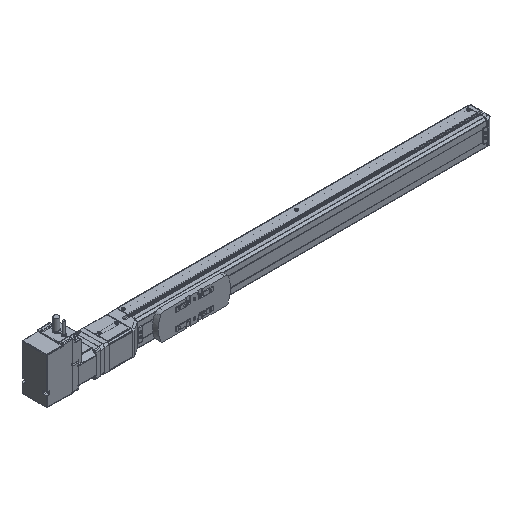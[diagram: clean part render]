
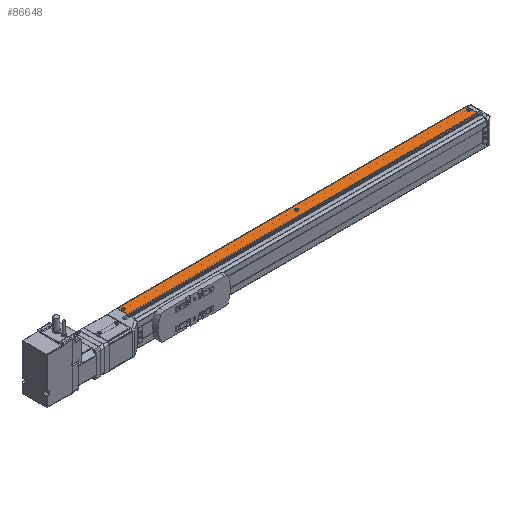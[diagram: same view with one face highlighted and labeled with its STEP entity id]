
A CAD part, isometric view. The second image highlights one B-rep face of the part: STEP entity #86648.
In plain terms, the highlighted planar face has unit normal (0, 0, 1) as drawn and (0, 0, -1) by its records, which use the part's own axes.
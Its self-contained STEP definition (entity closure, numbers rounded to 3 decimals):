
#68400 = PLANE('',#68401);
#68401 = AXIS2_PLACEMENT_3D('',#68402,#68403,#68404);
#68402 = CARTESIAN_POINT('',(-576.5,1.25,21.3));
#68403 = DIRECTION('',(1.,0.,0.));
#68404 = DIRECTION('',(0.,0.,-1.));
#68828 = PLANE('',#68829);
#68829 = AXIS2_PLACEMENT_3D('',#68830,#68831,#68832);
#68830 = CARTESIAN_POINT('',(-9.5,1.25,21.3));
#68831 = DIRECTION('',(1.,0.,0.));
#68832 = DIRECTION('',(0.,0.,-1.));
#85841 = VERTEX_POINT('',#85842);
#85842 = CARTESIAN_POINT('',(-576.5,-2.65,-21.5));
#85859 = CYLINDRICAL_SURFACE('',#85860,0.2);
#85860 = AXIS2_PLACEMENT_3D('',#85861,#85862,#85863);
#85861 = CARTESIAN_POINT('',(-576.5,-2.65,-21.3));
#85862 = DIRECTION('',(1.,0.,0.));
#85863 = DIRECTION('',(0.,0.,-1.));
#85871 = EDGE_CURVE('',#85872,#85841,#85874,.T.);
#85872 = VERTEX_POINT('',#85873);
#85873 = CARTESIAN_POINT('',(-576.5,-20.734,-21.5));
#85874 = SURFACE_CURVE('',#85875,(#85879,#85886),.PCURVE_S1.);
#85875 = LINE('',#85876,#85877);
#85876 = CARTESIAN_POINT('',(-576.5,-20.734,-21.5));
#85877 = VECTOR('',#85878,1.);
#85878 = DIRECTION('',(0.,1.,0.));
#85879 = PCURVE('',#68400,#85880);
#85880 = DEFINITIONAL_REPRESENTATION('',(#85881),#85885);
#85881 = LINE('',#85882,#85883);
#85882 = CARTESIAN_POINT('',(42.8,-21.984));
#85883 = VECTOR('',#85884,1.);
#85884 = DIRECTION('',(0.,1.));
#85885 = ( GEOMETRIC_REPRESENTATION_CONTEXT(2) 
PARAMETRIC_REPRESENTATION_CONTEXT() REPRESENTATION_CONTEXT('2D SPACE',''
  ) );
#85886 = PCURVE('',#85887,#85892);
#85887 = PLANE('',#85888);
#85888 = AXIS2_PLACEMENT_3D('',#85889,#85890,#85891);
#85889 = CARTESIAN_POINT('',(-576.5,-20.734,-21.5));
#85890 = DIRECTION('',(0.,0.,-1.));
#85891 = DIRECTION('',(-1.,0.,0.));
#85892 = DEFINITIONAL_REPRESENTATION('',(#85893),#85897);
#85893 = LINE('',#85894,#85895);
#85894 = CARTESIAN_POINT('',(0.,0.));
#85895 = VECTOR('',#85896,1.);
#85896 = DIRECTION('',(0.,1.));
#85897 = ( GEOMETRIC_REPRESENTATION_CONTEXT(2) 
PARAMETRIC_REPRESENTATION_CONTEXT() REPRESENTATION_CONTEXT('2D SPACE',''
  ) );
#85916 = CYLINDRICAL_SURFACE('',#85917,1.);
#85917 = AXIS2_PLACEMENT_3D('',#85918,#85919,#85920);
#85918 = CARTESIAN_POINT('',(-576.5,-20.734,-20.5));
#85919 = DIRECTION('',(1.,0.,0.));
#85920 = DIRECTION('',(0.,0.,-1.));
#86329 = VERTEX_POINT('',#86330);
#86330 = CARTESIAN_POINT('',(-9.5,-20.734,-21.5));
#86352 = EDGE_CURVE('',#86329,#86353,#86355,.T.);
#86353 = VERTEX_POINT('',#86354);
#86354 = CARTESIAN_POINT('',(-9.5,-2.65,-21.5));
#86355 = SURFACE_CURVE('',#86356,(#86360,#86367),.PCURVE_S1.);
#86356 = LINE('',#86357,#86358);
#86357 = CARTESIAN_POINT('',(-9.5,-20.734,-21.5));
#86358 = VECTOR('',#86359,1.);
#86359 = DIRECTION('',(0.,1.,0.));
#86360 = PCURVE('',#68828,#86361);
#86361 = DEFINITIONAL_REPRESENTATION('',(#86362),#86366);
#86362 = LINE('',#86363,#86364);
#86363 = CARTESIAN_POINT('',(42.8,-21.984));
#86364 = VECTOR('',#86365,1.);
#86365 = DIRECTION('',(0.,1.));
#86366 = ( GEOMETRIC_REPRESENTATION_CONTEXT(2) 
PARAMETRIC_REPRESENTATION_CONTEXT() REPRESENTATION_CONTEXT('2D SPACE',''
  ) );
#86367 = PCURVE('',#85887,#86368);
#86368 = DEFINITIONAL_REPRESENTATION('',(#86369),#86373);
#86369 = LINE('',#86370,#86371);
#86370 = CARTESIAN_POINT('',(-567.,0.));
#86371 = VECTOR('',#86372,1.);
#86372 = DIRECTION('',(0.,1.));
#86373 = ( GEOMETRIC_REPRESENTATION_CONTEXT(2) 
PARAMETRIC_REPRESENTATION_CONTEXT() REPRESENTATION_CONTEXT('2D SPACE',''
  ) );
#86628 = EDGE_CURVE('',#85872,#86329,#86629,.T.);
#86629 = SURFACE_CURVE('',#86630,(#86634,#86641),.PCURVE_S1.);
#86630 = LINE('',#86631,#86632);
#86631 = CARTESIAN_POINT('',(-576.5,-20.734,-21.5));
#86632 = VECTOR('',#86633,1.);
#86633 = DIRECTION('',(1.,0.,0.));
#86634 = PCURVE('',#85916,#86635);
#86635 = DEFINITIONAL_REPRESENTATION('',(#86636),#86640);
#86636 = LINE('',#86637,#86638);
#86637 = CARTESIAN_POINT('',(6.283,0.));
#86638 = VECTOR('',#86639,1.);
#86639 = DIRECTION('',(0.,1.));
#86640 = ( GEOMETRIC_REPRESENTATION_CONTEXT(2) 
PARAMETRIC_REPRESENTATION_CONTEXT() REPRESENTATION_CONTEXT('2D SPACE',''
  ) );
#86641 = PCURVE('',#85887,#86642);
#86642 = DEFINITIONAL_REPRESENTATION('',(#86643),#86647);
#86643 = LINE('',#86644,#86645);
#86644 = CARTESIAN_POINT('',(0.,0.));
#86645 = VECTOR('',#86646,1.);
#86646 = DIRECTION('',(-1.,0.));
#86647 = ( GEOMETRIC_REPRESENTATION_CONTEXT(2) 
PARAMETRIC_REPRESENTATION_CONTEXT() REPRESENTATION_CONTEXT('2D SPACE',''
  ) );
#86648 = ADVANCED_FACE('',(#86649,#86680,#86715,#86750),#85887,.T.);
#86649 = FACE_BOUND('',#86650,.T.);
#86650 = EDGE_LOOP('',(#86651));
#86651 = ORIENTED_EDGE('',*,*,#86652,.F.);
#86652 = EDGE_CURVE('',#86653,#86653,#86655,.T.);
#86653 = VERTEX_POINT('',#86654);
#86654 = CARTESIAN_POINT('',(-295.25,-13.5,-21.5));
#86655 = SURFACE_CURVE('',#86656,(#86661,#86668),.PCURVE_S1.);
#86656 = CIRCLE('',#86657,2.25);
#86657 = AXIS2_PLACEMENT_3D('',#86658,#86659,#86660);
#86658 = CARTESIAN_POINT('',(-293.,-13.5,-21.5));
#86659 = DIRECTION('',(0.,0.,-1.));
#86660 = DIRECTION('',(-1.,0.,0.));
#86661 = PCURVE('',#85887,#86662);
#86662 = DEFINITIONAL_REPRESENTATION('',(#86663),#86667);
#86663 = CIRCLE('',#86664,2.25);
#86664 = AXIS2_PLACEMENT_2D('',#86665,#86666);
#86665 = CARTESIAN_POINT('',(-283.5,7.234));
#86666 = DIRECTION('',(1.,0.));
#86667 = ( GEOMETRIC_REPRESENTATION_CONTEXT(2) 
PARAMETRIC_REPRESENTATION_CONTEXT() REPRESENTATION_CONTEXT('2D SPACE',''
  ) );
#86668 = PCURVE('',#86669,#86674);
#86669 = CONICAL_SURFACE('',#86670,2.25,0.087);
#86670 = AXIS2_PLACEMENT_3D('',#86671,#86672,#86673);
#86671 = CARTESIAN_POINT('',(-293.,-13.5,-21.5));
#86672 = DIRECTION('',(0.,0.,1.));
#86673 = DIRECTION('',(1.,0.,-0.));
#86674 = DEFINITIONAL_REPRESENTATION('',(#86675),#86679);
#86675 = LINE('',#86676,#86677);
#86676 = CARTESIAN_POINT('',(9.425,0.));
#86677 = VECTOR('',#86678,1.);
#86678 = DIRECTION('',(-1.,0.));
#86679 = ( GEOMETRIC_REPRESENTATION_CONTEXT(2) 
PARAMETRIC_REPRESENTATION_CONTEXT() REPRESENTATION_CONTEXT('2D SPACE',''
  ) );
#86680 = FACE_BOUND('',#86681,.T.);
#86681 = EDGE_LOOP('',(#86682));
#86682 = ORIENTED_EDGE('',*,*,#86683,.T.);
#86683 = EDGE_CURVE('',#86684,#86684,#86686,.T.);
#86684 = VERTEX_POINT('',#86685);
#86685 = CARTESIAN_POINT('',(-570.71,-14.5,-21.5));
#86686 = SURFACE_CURVE('',#86687,(#86692,#86703),.PCURVE_S1.);
#86687 = CIRCLE('',#86688,2.29);
#86688 = AXIS2_PLACEMENT_3D('',#86689,#86690,#86691);
#86689 = CARTESIAN_POINT('',(-573.,-14.5,-21.5));
#86690 = DIRECTION('',(0.,0.,1.));
#86691 = DIRECTION('',(1.,0.,-0.));
#86692 = PCURVE('',#85887,#86693);
#86693 = DEFINITIONAL_REPRESENTATION('',(#86694),#86702);
#86694 = ( BOUNDED_CURVE() B_SPLINE_CURVE(2,(#86695,#86696,#86697,#86698
    ,#86699,#86700,#86701),.UNSPECIFIED.,.T.,.F.) 
B_SPLINE_CURVE_WITH_KNOTS((1,2,2,2,2,1),(-2.094,0.,
    2.094,4.189,6.283,8.378),
.UNSPECIFIED.) CURVE() GEOMETRIC_REPRESENTATION_ITEM() 
RATIONAL_B_SPLINE_CURVE((1.,0.5,1.,0.5,1.,0.5,1.)) REPRESENTATION_ITEM(
  '') );
#86695 = CARTESIAN_POINT('',(-5.79,6.234));
#86696 = CARTESIAN_POINT('',(-5.79,10.201));
#86697 = CARTESIAN_POINT('',(-2.355,8.218));
#86698 = CARTESIAN_POINT('',(1.08,6.234));
#86699 = CARTESIAN_POINT('',(-2.355,4.251));
#86700 = CARTESIAN_POINT('',(-5.79,2.268));
#86701 = CARTESIAN_POINT('',(-5.79,6.234));
#86702 = ( GEOMETRIC_REPRESENTATION_CONTEXT(2) 
PARAMETRIC_REPRESENTATION_CONTEXT() REPRESENTATION_CONTEXT('2D SPACE',''
  ) );
#86703 = PCURVE('',#86704,#86709);
#86704 = CONICAL_SURFACE('',#86705,2.221,0.087);
#86705 = AXIS2_PLACEMENT_3D('',#86706,#86707,#86708);
#86706 = CARTESIAN_POINT('',(-573.,-14.5,-22.289));
#86707 = DIRECTION('',(0.,0.,1.));
#86708 = DIRECTION('',(1.,0.,-0.));
#86709 = DEFINITIONAL_REPRESENTATION('',(#86710),#86714);
#86710 = LINE('',#86711,#86712);
#86711 = CARTESIAN_POINT('',(0.,0.789));
#86712 = VECTOR('',#86713,1.);
#86713 = DIRECTION('',(1.,0.));
#86714 = ( GEOMETRIC_REPRESENTATION_CONTEXT(2) 
PARAMETRIC_REPRESENTATION_CONTEXT() REPRESENTATION_CONTEXT('2D SPACE',''
  ) );
#86715 = FACE_BOUND('',#86716,.T.);
#86716 = EDGE_LOOP('',(#86717));
#86717 = ORIENTED_EDGE('',*,*,#86718,.T.);
#86718 = EDGE_CURVE('',#86719,#86719,#86721,.T.);
#86719 = VERTEX_POINT('',#86720);
#86720 = CARTESIAN_POINT('',(-10.71,-14.5,-21.5));
#86721 = SURFACE_CURVE('',#86722,(#86727,#86738),.PCURVE_S1.);
#86722 = CIRCLE('',#86723,2.29);
#86723 = AXIS2_PLACEMENT_3D('',#86724,#86725,#86726);
#86724 = CARTESIAN_POINT('',(-13.,-14.5,-21.5));
#86725 = DIRECTION('',(0.,0.,1.));
#86726 = DIRECTION('',(1.,0.,-0.));
#86727 = PCURVE('',#85887,#86728);
#86728 = DEFINITIONAL_REPRESENTATION('',(#86729),#86737);
#86729 = ( BOUNDED_CURVE() B_SPLINE_CURVE(2,(#86730,#86731,#86732,#86733
    ,#86734,#86735,#86736),.UNSPECIFIED.,.T.,.F.) 
B_SPLINE_CURVE_WITH_KNOTS((1,2,2,2,2,1),(-2.094,0.,
    2.094,4.189,6.283,8.378),
.UNSPECIFIED.) CURVE() GEOMETRIC_REPRESENTATION_ITEM() 
RATIONAL_B_SPLINE_CURVE((1.,0.5,1.,0.5,1.,0.5,1.)) REPRESENTATION_ITEM(
  '') );
#86730 = CARTESIAN_POINT('',(-565.79,6.234));
#86731 = CARTESIAN_POINT('',(-565.79,10.201));
#86732 = CARTESIAN_POINT('',(-562.355,8.218));
#86733 = CARTESIAN_POINT('',(-558.92,6.234));
#86734 = CARTESIAN_POINT('',(-562.355,4.251));
#86735 = CARTESIAN_POINT('',(-565.79,2.268));
#86736 = CARTESIAN_POINT('',(-565.79,6.234));
#86737 = ( GEOMETRIC_REPRESENTATION_CONTEXT(2) 
PARAMETRIC_REPRESENTATION_CONTEXT() REPRESENTATION_CONTEXT('2D SPACE',''
  ) );
#86738 = PCURVE('',#86739,#86744);
#86739 = CONICAL_SURFACE('',#86740,2.221,0.087);
#86740 = AXIS2_PLACEMENT_3D('',#86741,#86742,#86743);
#86741 = CARTESIAN_POINT('',(-13.,-14.5,-22.289));
#86742 = DIRECTION('',(0.,0.,1.));
#86743 = DIRECTION('',(1.,0.,-0.));
#86744 = DEFINITIONAL_REPRESENTATION('',(#86745),#86749);
#86745 = LINE('',#86746,#86747);
#86746 = CARTESIAN_POINT('',(0.,0.789));
#86747 = VECTOR('',#86748,1.);
#86748 = DIRECTION('',(1.,0.));
#86749 = ( GEOMETRIC_REPRESENTATION_CONTEXT(2) 
PARAMETRIC_REPRESENTATION_CONTEXT() REPRESENTATION_CONTEXT('2D SPACE',''
  ) );
#86750 = FACE_BOUND('',#86751,.T.);
#86751 = EDGE_LOOP('',(#86752,#86753,#86754,#86755));
#86752 = ORIENTED_EDGE('',*,*,#86352,.F.);
#86753 = ORIENTED_EDGE('',*,*,#86628,.F.);
#86754 = ORIENTED_EDGE('',*,*,#85871,.T.);
#86755 = ORIENTED_EDGE('',*,*,#86756,.T.);
#86756 = EDGE_CURVE('',#85841,#86353,#86757,.T.);
#86757 = SURFACE_CURVE('',#86758,(#86762,#86769),.PCURVE_S1.);
#86758 = LINE('',#86759,#86760);
#86759 = CARTESIAN_POINT('',(-576.5,-2.65,-21.5));
#86760 = VECTOR('',#86761,1.);
#86761 = DIRECTION('',(1.,0.,0.));
#86762 = PCURVE('',#85887,#86763);
#86763 = DEFINITIONAL_REPRESENTATION('',(#86764),#86768);
#86764 = LINE('',#86765,#86766);
#86765 = CARTESIAN_POINT('',(0.,18.084));
#86766 = VECTOR('',#86767,1.);
#86767 = DIRECTION('',(-1.,0.));
#86768 = ( GEOMETRIC_REPRESENTATION_CONTEXT(2) 
PARAMETRIC_REPRESENTATION_CONTEXT() REPRESENTATION_CONTEXT('2D SPACE',''
  ) );
#86769 = PCURVE('',#85859,#86770);
#86770 = DEFINITIONAL_REPRESENTATION('',(#86771),#86775);
#86771 = LINE('',#86772,#86773);
#86772 = CARTESIAN_POINT('',(0.,0.));
#86773 = VECTOR('',#86774,1.);
#86774 = DIRECTION('',(0.,1.));
#86775 = ( GEOMETRIC_REPRESENTATION_CONTEXT(2) 
PARAMETRIC_REPRESENTATION_CONTEXT() REPRESENTATION_CONTEXT('2D SPACE',''
  ) );
